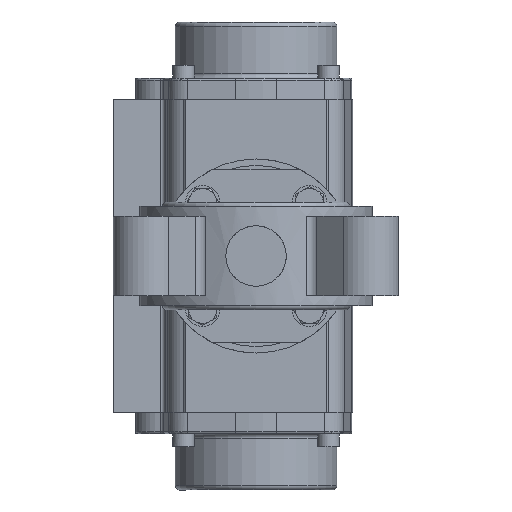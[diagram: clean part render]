
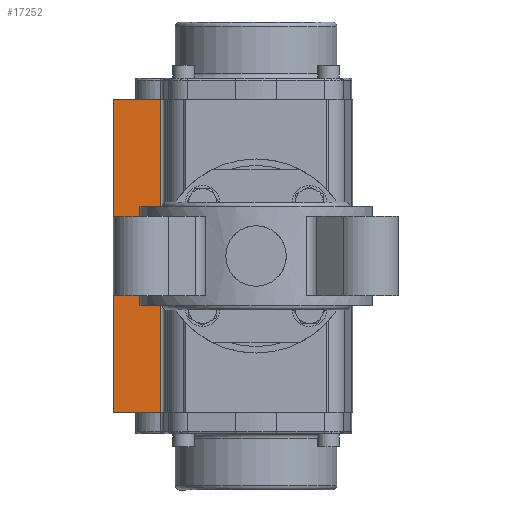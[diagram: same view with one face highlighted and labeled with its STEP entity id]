
A CAD part, front view. The second image highlights one B-rep face of the part: STEP entity #17252.
In plain terms, the highlighted planar face has unit normal (0, -1, 0).
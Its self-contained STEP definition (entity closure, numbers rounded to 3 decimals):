
#643 = CARTESIAN_POINT ( 'NONE',  ( 72.45, -22., 44.111 ) ) ;
#1649 = VECTOR ( 'NONE', #1852, 1000. ) ;
#1782 = EDGE_LOOP ( 'NONE', ( #20222, #17594, #6286, #8218 ) ) ;
#1852 = DIRECTION ( 'NONE',  ( 0., 0., -1. ) ) ;
#4090 = LINE ( 'NONE', #11707, #17858 ) ;
#4461 = CARTESIAN_POINT ( 'NONE',  ( 72.45, -22., 66. ) ) ;
#4993 = DIRECTION ( 'NONE',  ( 0., 0., 1. ) ) ;
#5017 = CARTESIAN_POINT ( 'NONE',  ( 72.45, -22., 66. ) ) ;
#6286 = ORIENTED_EDGE ( 'NONE', *, *, #7492, .F. ) ;
#7162 = CARTESIAN_POINT ( 'NONE',  ( -72.45, -22., 66. ) ) ;
#7337 = VERTEX_POINT ( 'NONE', #23305 ) ;
#7433 = EDGE_CURVE ( 'NONE', #15845, #13853, #4090, .T. ) ;
#7492 = EDGE_CURVE ( 'NONE', #15845, #7337, #18225, .T. ) ;
#8042 = VERTEX_POINT ( 'NONE', #16621 ) ;
#8218 = ORIENTED_EDGE ( 'NONE', *, *, #7433, .T. ) ;
#10594 = DIRECTION ( 'NONE',  ( 0., 1., 0. ) ) ;
#11707 = CARTESIAN_POINT ( 'NONE',  ( 72.45, -22., 66. ) ) ;
#11903 = AXIS2_PLACEMENT_3D ( 'NONE', #12501, #10594, #4993 ) ;
#12501 = CARTESIAN_POINT ( 'NONE',  ( 72.45, -22., 66. ) ) ;
#12856 = FACE_OUTER_BOUND ( 'NONE', #1782, .T. ) ;
#13135 = VECTOR ( 'NONE', #21751, 1000. ) ;
#13853 = VERTEX_POINT ( 'NONE', #20422 ) ;
#13977 = EDGE_CURVE ( 'NONE', #13853, #8042, #18777, .T. ) ;
#14172 = VECTOR ( 'NONE', #15926, 1000. ) ;
#15845 = VERTEX_POINT ( 'NONE', #5017 ) ;
#15926 = DIRECTION ( 'NONE',  ( 0., 0., -1. ) ) ;
#16026 = LINE ( 'NONE', #643, #13135 ) ;
#16621 = CARTESIAN_POINT ( 'NONE',  ( -72.45, -22., 44.111 ) ) ;
#16728 = PLANE ( 'NONE',  #11903 ) ;
#17252 = ADVANCED_FACE ( 'NONE', ( #12856 ), #16728, .F. ) ;
#17594 = ORIENTED_EDGE ( 'NONE', *, *, #21586, .T. ) ;
#17858 = VECTOR ( 'NONE', #21282, 1000. ) ;
#18225 = LINE ( 'NONE', #4461, #14172 ) ;
#18777 = LINE ( 'NONE', #7162, #1649 ) ;
#20222 = ORIENTED_EDGE ( 'NONE', *, *, #13977, .T. ) ;
#20422 = CARTESIAN_POINT ( 'NONE',  ( -72.45, -22., 66. ) ) ;
#21282 = DIRECTION ( 'NONE',  ( -1., 0., 0. ) ) ;
#21586 = EDGE_CURVE ( 'NONE', #8042, #7337, #16026, .T. ) ;
#21751 = DIRECTION ( 'NONE',  ( 1., 0., 0. ) ) ;
#23305 = CARTESIAN_POINT ( 'NONE',  ( 72.45, -22., 44.111 ) ) ;
